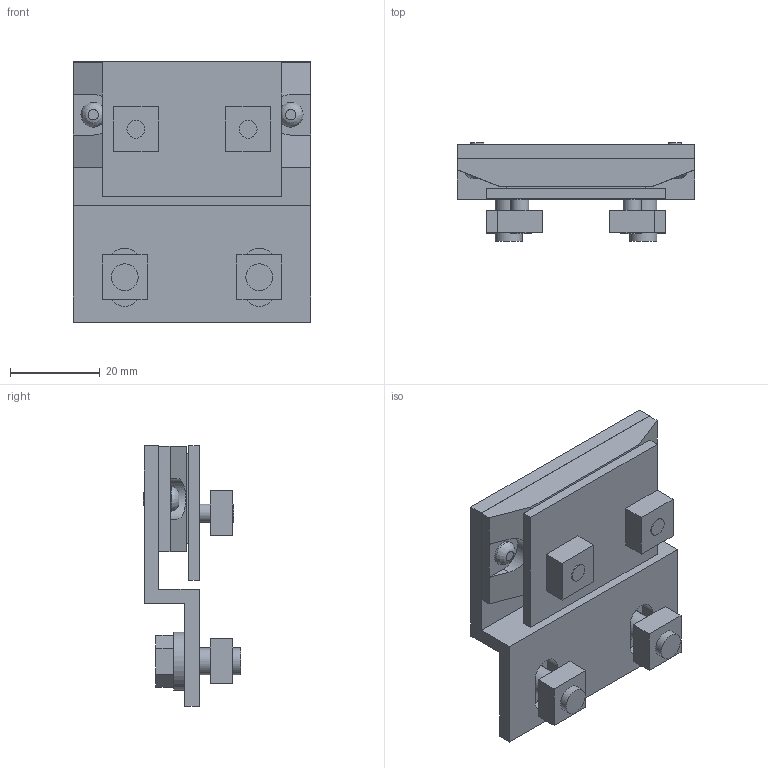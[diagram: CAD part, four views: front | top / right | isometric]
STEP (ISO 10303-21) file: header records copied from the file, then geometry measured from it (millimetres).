
FILE_DESCRIPTION((''),'2;1');
FILE_NAME('C:\Documents and Settings\古川典政\My Documents\Inventor\HP用\MasterData\ACCESSORY\M6\DMCS-68_M6.stp','2008-08-05T14:35:09',(''),(''),'Autodesk Inventor 2008','Autodesk Inventor 2008','');
FILE_SCHEMA(('CONFIG_CONTROL_DESIGN'));
Length unit declared in the file: millimetre
Products named in the file (14): DMCS-68_M6; DMCS-68_M61; DMCS-68_M62; DMCS-68_M63; DMCS-68_M64; DMCS-68_M65; DMCS-68_M66; DMCS-68_M67; DMCS-68_M68; DMCS-68_M69; DMCS-68_M610; DMCS-68_M611; DMCS-68_M612; DMCS-68_M613
Assembly tree (13 placements, depth 2):
  DMCS-68_M6
    DMCS-68_M61
    DMCS-68_M62
    DMCS-68_M63
    DMCS-68_M64
    DMCS-68_M65
    DMCS-68_M66
    DMCS-68_M67
    DMCS-68_M68
    DMCS-68_M69
    DMCS-68_M610
    DMCS-68_M611
    DMCS-68_M612
    DMCS-68_M613
Bounding box: 53 x 21.8 x 58 mm (x, y, z)
Volume: 24477.3 mm3; surface area: 18019.1 mm2
Topology: 13 solids, 13 shells, 129 faces, 284 edges, 190 vertices
Faces by surface type: plane 90, cylinder 18, bspline 18, cone 3
Full cylindrical faces by diameter (mm): 3 x3, 3.5 x1, 4 x2, 4.5 x1, 5.5 x2, 6 x2, 6.4 x2, 13 x2
Entity records: 3950 total; most frequent: CARTESIAN_POINT 868, DIRECTION 582, ORIENTED_EDGE 488, EDGE_CURVE 244, AXIS2_PLACEMENT_3D 200, EDGE_LOOP 190, VECTOR 182, LINE 182
